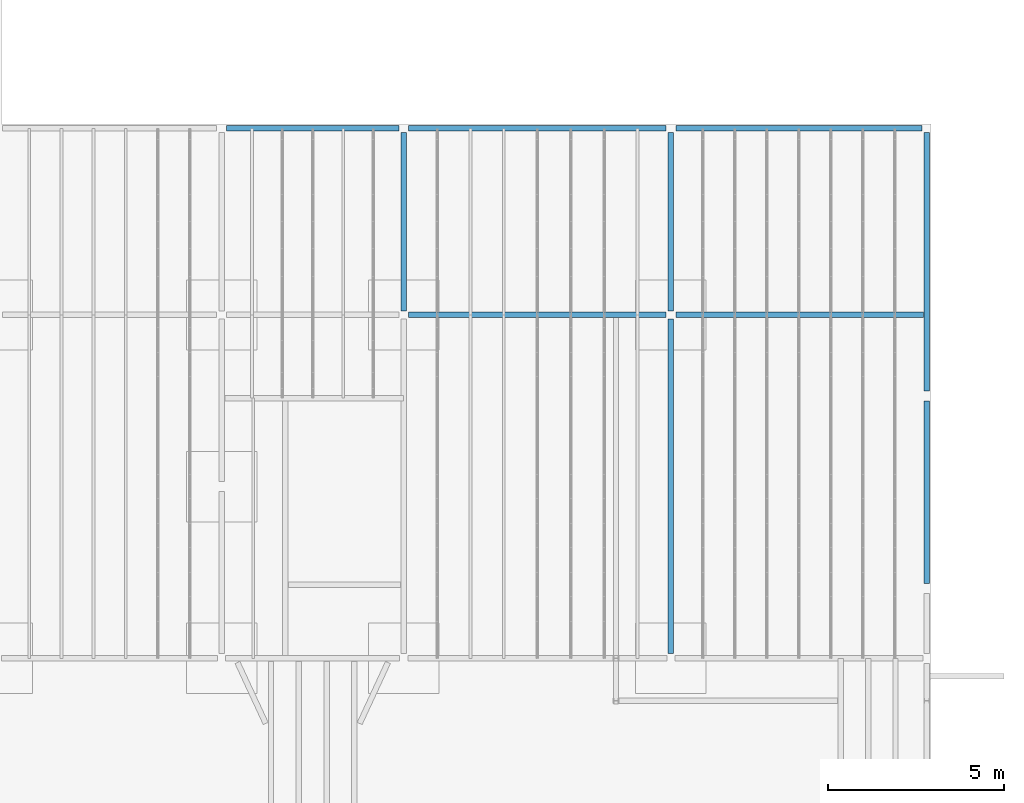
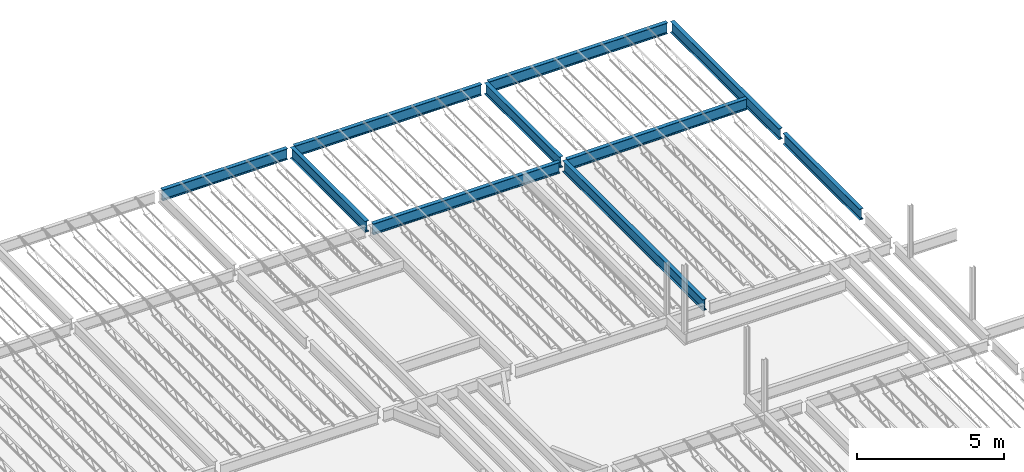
# One storey, part 15 of 75: 10 beams.
"""IFC2X3 building model written with IfcOpenShell, lengths in metres."""

from ifc_helpers import new_model, entity, si_unit, converted_unit, frame, frame_2d, origin, place, context, project, spatial, polyline, circle_curve, parameter, trimmed, segment, composite_curve, outline, extrude, material, element, save


model = new_model("IFC2X3")

# Units and contexts
model_context = context("Model", 3, precision=1e-09, world=origin())
plan_context = context("Plan", 3, precision=1e-09, world=origin())
ifc_project = project(units=[si_unit("LENGTHUNIT", "METRE"), si_unit("AREAUNIT", "SQUARE_METRE"), si_unit("VOLUMEUNIT", "CUBIC_METRE"), converted_unit("PLANEANGLEUNIT", "DEGREE", entity("IfcRatioMeasure", 0.01745329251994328), si_unit("PLANEANGLEUNIT", "RADIAN"), dimensions=[0, 0, 0, 0, 0, 0, 0]), si_unit("TIMEUNIT", "SECOND")], contexts=[model_context, plan_context])

# Site, building, storey
site_placement = place(None, origin())
site = spatial("IfcSite", under=ifc_project, at=site_placement, Name="Default", CompositionType="ELEMENT")
building_placement = place(site_placement, origin())
building = spatial("IfcBuilding", under=site, at=building_placement, CompositionType="ELEMENT")
storey_placement = place(building_placement, origin())
storey = spatial("IfcBuildingStorey", under=building, at=storey_placement, Name="First Floor", CompositionType="ELEMENT", Elevation=-3.531500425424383e-13)

# Beams
ifc_material = material(Name="Metal - Steel - 345 MPa")
beam_1_placement = place(storey_placement, frame((0.0, 42.48014042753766, 4.46800000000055), z_axis=(0.0, 0.0, 1.0), x_axis=(-1.0, 0.0, 0.0)))
element("IfcBeam", 1, at=beam_1_placement, inside=storey, material=ifc_material, Name="M_W-Wide Flange:W460X60:W460X60", ObjectType="M_W-Wide Flange:W460X60", context=model_context, shape_type="SweptSolid", body=[
    extrude(outline(composite_curve([segment(polyline([(0.2141999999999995, -0.07650000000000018), (0.2275000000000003, -0.07650000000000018)]), True, "CONTINUOUS"), segment(polyline([(0.2275000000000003, -0.07650000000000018), (0.2275000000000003, 0.07650000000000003)]), True, "CONTINUOUS"), segment(polyline([(0.2275000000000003, 0.07650000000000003), (0.2141999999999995, 0.07650000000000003)]), True, "CONTINUOUS"), segment(polyline([(0.2141999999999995, 0.07650000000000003), (0.2141999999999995, 0.02169999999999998)]), True, "CONTINUOUS"), segment(trimmed(circle_curve(frame_2d((0.1964999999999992, 0.02169999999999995), x_axis=(1.0, 0.0)), 0.0177), [parameter(269.9999999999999)], [parameter(359.9999999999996)], True, "PARAMETER"), False, "CONTINUOUS"), segment(polyline([(0.1964999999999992, 0.003999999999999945), (-0.1965000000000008, 0.003999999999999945)]), True, "CONTINUOUS"), segment(trimmed(circle_curve(frame_2d((-0.1965000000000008, 0.02169999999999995), x_axis=(0.0, -1.0)), 0.0177), [parameter(269.9999999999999)], [parameter(359.9999999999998)], True, "PARAMETER"), False, "CONTINUOUS"), segment(polyline([(-0.2142000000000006, 0.02169999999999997), (-0.2142000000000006, 0.07650000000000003)]), True, "CONTINUOUS"), segment(polyline([(-0.2142000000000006, 0.07650000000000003), (-0.2274999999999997, 0.07650000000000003)]), True, "CONTINUOUS"), segment(polyline([(-0.2274999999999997, 0.07650000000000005), (-0.2274999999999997, -0.07649999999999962)]), True, "CONTINUOUS"), segment(polyline([(-0.2274999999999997, -0.07649999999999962), (-0.2142000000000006, -0.07649999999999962)]), True, "CONTINUOUS"), segment(polyline([(-0.2142000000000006, -0.07649999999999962), (-0.2142000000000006, -0.02170000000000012)]), True, "CONTINUOUS"), segment(trimmed(circle_curve(frame_2d((-0.1965000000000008, -0.02170000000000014), x_axis=(-1.0, 0.0)), 0.0177), [parameter(269.9999999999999)], [parameter(359.9999999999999)], True, "PARAMETER"), False, "CONTINUOUS"), segment(polyline([(-0.1965000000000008, -0.004000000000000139), (0.1964999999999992, -0.004000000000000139)]), True, "CONTINUOUS"), segment(trimmed(circle_curve(frame_2d((0.1964999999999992, -0.02170000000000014), x_axis=(0.0, 1.0)), 0.0177), [parameter(269.9999999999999)], [parameter(5.088887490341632e-14)], True, "PARAMETER"), False, "CONTINUOUS"), segment(polyline([(0.2141999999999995, -0.02170000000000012), (0.2141999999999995, -0.07650000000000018)]), True, "CONTINUOUS")], self_intersect=False)), frame((0.0, 5.34769562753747, -0.2275000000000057), z_axis=(0.0, -1.0, 0.0), x_axis=(0.0, 0.0, -1.0)), (0.0, 0.0, 1.0), 5.204),
])
beam_2_placement = place(storey_placement, frame((-7.281880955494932, 50.08999999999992, 4.404500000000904), z_axis=(0.0, 0.0, 1.0), x_axis=(0.0, -1.0, 0.0)))
element("IfcBeam", 2, at=beam_2_placement, inside=storey, material=ifc_material, Name="M_W-Wide Flange:W460X60:W460X60", ObjectType="M_W-Wide Flange:W460X60", context=model_context, shape_type="SweptSolid", body=[
    extrude(outline(composite_curve([segment(polyline([(-0.07650000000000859, -0.2142000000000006), (-0.07650000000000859, -0.2275000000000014)]), True, "CONTINUOUS"), segment(polyline([(-0.07650000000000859, -0.2275000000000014), (0.07649999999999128, -0.2275000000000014)]), True, "CONTINUOUS"), segment(polyline([(0.07649999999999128, -0.2275000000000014), (0.07649999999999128, -0.2142000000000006)]), True, "CONTINUOUS"), segment(polyline([(0.07649999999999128, -0.2142000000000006), (0.02169999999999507, -0.2142000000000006)]), True, "CONTINUOUS"), segment(trimmed(circle_curve(frame_2d((0.0216999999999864, -0.1965000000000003), x_axis=(0.0, -1.0)), 0.0177), [parameter(269.9999999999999)], [parameter(359.9999999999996)], True, "PARAMETER"), False, "CONTINUOUS"), segment(polyline([(0.003999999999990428, -0.1965000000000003), (0.003999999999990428, 0.1964999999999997)]), True, "CONTINUOUS"), segment(trimmed(circle_curve(frame_2d((0.0216999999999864, 0.1964999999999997), x_axis=(-1.0, 0.0)), 0.0177), [parameter(269.9999999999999)], [parameter(359.9999999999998)], True, "PARAMETER"), False, "CONTINUOUS"), segment(polyline([(0.02169999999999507, 0.2141999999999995), (0.07649999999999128, 0.2141999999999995)]), True, "CONTINUOUS"), segment(polyline([(0.07649999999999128, 0.2141999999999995), (0.07649999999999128, 0.2274999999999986)]), True, "CONTINUOUS"), segment(polyline([(0.07649999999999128, 0.2274999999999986), (-0.07650000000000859, 0.2274999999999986)]), True, "CONTINUOUS"), segment(polyline([(-0.07650000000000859, 0.2274999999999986), (-0.07650000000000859, 0.2141999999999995)]), True, "CONTINUOUS"), segment(polyline([(-0.07650000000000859, 0.2141999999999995), (-0.02170000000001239, 0.2141999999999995)]), True, "CONTINUOUS"), segment(trimmed(circle_curve(frame_2d((-0.02170000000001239, 0.1964999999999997), x_axis=(0.0, 1.0)), 0.0177), [parameter(269.9999999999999)], [parameter(359.9999999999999)], True, "PARAMETER"), False, "CONTINUOUS"), segment(polyline([(-0.004000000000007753, 0.1964999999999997), (-0.004000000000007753, -0.1965000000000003)]), True, "CONTINUOUS"), segment(trimmed(circle_curve(frame_2d((-0.02170000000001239, -0.1965000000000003), x_axis=(1.0, 0.0)), 0.0177), [parameter(269.9999999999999)], [parameter(5.088887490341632e-14)], True, "PARAMETER"), False, "CONTINUOUS"), segment(polyline([(-0.02170000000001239, -0.2142000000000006), (-0.07650000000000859, -0.2142000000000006)]), True, "CONTINUOUS")], self_intersect=False)), frame((0.0, 0.1430809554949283, -0.2275000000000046), z_axis=(0.0, -1.0, 0.0), x_axis=(1.0, 0.0, 0.0)), (0.0, 0.0, -1.0), 6.997600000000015),
])
beam_3_placement = place(storey_placement, frame((0.0, 50.09179885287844, 4.468000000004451), z_axis=(0.0, 0.0, 1.0), x_axis=(-1.0, 0.0, 0.0)))
element("IfcBeam", 3, at=beam_3_placement, inside=storey, material=ifc_material, Name="M_W-Wide Flange:W460X60:W460X60", ObjectType="M_W-Wide Flange:W460X60", context=model_context, shape_type="SweptSolid", body=[
    extrude(outline(composite_curve([segment(polyline([(0.2142000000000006, -0.07650000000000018), (0.2275000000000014, -0.07650000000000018)]), True, "CONTINUOUS"), segment(polyline([(0.2275000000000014, -0.07650000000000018), (0.2275000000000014, 0.07650000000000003)]), True, "CONTINUOUS"), segment(polyline([(0.2275000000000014, 0.07650000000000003), (0.2142000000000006, 0.07650000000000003)]), True, "CONTINUOUS"), segment(polyline([(0.2142000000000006, 0.07650000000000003), (0.2142000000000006, 0.02169999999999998)]), True, "CONTINUOUS"), segment(trimmed(circle_curve(frame_2d((0.1965000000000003, 0.02169999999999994), x_axis=(1.0, 0.0)), 0.0177), [parameter(269.9999999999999)], [parameter(359.9999999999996)], True, "PARAMETER"), False, "CONTINUOUS"), segment(polyline([(0.1965000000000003, 0.003999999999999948), (-0.1964999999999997, 0.003999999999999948)]), True, "CONTINUOUS"), segment(trimmed(circle_curve(frame_2d((-0.1964999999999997, 0.02169999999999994), x_axis=(0.0, -1.0)), 0.0177), [parameter(269.9999999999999)], [parameter(359.9999999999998)], True, "PARAMETER"), False, "CONTINUOUS"), segment(polyline([(-0.2141999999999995, 0.02169999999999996), (-0.2141999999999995, 0.07650000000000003)]), True, "CONTINUOUS"), segment(polyline([(-0.2141999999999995, 0.07650000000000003), (-0.2274999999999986, 0.07650000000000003)]), True, "CONTINUOUS"), segment(polyline([(-0.2274999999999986, 0.07650000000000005), (-0.2274999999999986, -0.07649999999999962)]), True, "CONTINUOUS"), segment(polyline([(-0.2274999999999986, -0.07649999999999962), (-0.2141999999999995, -0.07649999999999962)]), True, "CONTINUOUS"), segment(polyline([(-0.2141999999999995, -0.07649999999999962), (-0.2141999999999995, -0.02170000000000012)]), True, "CONTINUOUS"), segment(trimmed(circle_curve(frame_2d((-0.1964999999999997, -0.02170000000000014), x_axis=(-1.0, 0.0)), 0.0177), [parameter(269.9999999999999)], [parameter(359.9999999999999)], True, "PARAMETER"), False, "CONTINUOUS"), segment(polyline([(-0.1964999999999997, -0.004000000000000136), (0.1965000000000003, -0.004000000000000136)]), True, "CONTINUOUS"), segment(trimmed(circle_curve(frame_2d((0.1965000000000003, -0.02170000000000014), x_axis=(0.0, 1.0)), 0.0177), [parameter(269.9999999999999)], [parameter(5.088887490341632e-14)], True, "PARAMETER"), False, "CONTINUOUS"), segment(polyline([(0.2142000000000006, -0.02170000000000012), (0.2142000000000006, -0.07650000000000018)]), True, "CONTINUOUS")], self_intersect=False)), frame((0.0, 7.472954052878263, -0.2275000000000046), z_axis=(0.0, -1.0, 0.0), x_axis=(0.0, 0.0, -1.0)), (0.0, 0.0, 1.0), 7.356455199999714),
])
beam_4_placement = place(storey_placement, frame((-7.279999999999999, 50.09257849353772, 4.468000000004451), z_axis=(0.0, 0.0, 1.0), x_axis=(-1.0, 0.0, 0.0)))
element("IfcBeam", 4, at=beam_4_placement, inside=storey, material=ifc_material, Name="M_W-Wide Flange:W460X60:W460X60", ObjectType="M_W-Wide Flange:W460X60", context=model_context, shape_type="SweptSolid", body=[
    extrude(outline(composite_curve([segment(polyline([(0.2142000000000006, -0.07649999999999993), (0.2275000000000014, -0.07649999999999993)]), True, "CONTINUOUS"), segment(polyline([(0.2275000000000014, -0.07649999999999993), (0.2275000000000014, 0.07650000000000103)]), True, "CONTINUOUS"), segment(polyline([(0.2275000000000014, 0.07650000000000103), (0.2142000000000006, 0.07650000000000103)]), True, "CONTINUOUS"), segment(polyline([(0.2142000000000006, 0.07650000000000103), (0.2142000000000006, 0.02170000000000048)]), True, "CONTINUOUS"), segment(trimmed(circle_curve(frame_2d((0.1965000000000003, 0.02170000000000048), x_axis=(1.0, 0.0)), 0.0177), [parameter(269.9999999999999)], [parameter(359.9999999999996)], True, "PARAMETER"), False, "CONTINUOUS"), segment(polyline([(0.1965000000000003, 0.004000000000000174), (-0.1964999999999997, 0.004000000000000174)]), True, "CONTINUOUS"), segment(trimmed(circle_curve(frame_2d((-0.1964999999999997, 0.02170000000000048), x_axis=(0.0, -1.0)), 0.0177), [parameter(269.9999999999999)], [parameter(359.9999999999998)], True, "PARAMETER"), False, "CONTINUOUS"), segment(polyline([(-0.2141999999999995, 0.02170000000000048), (-0.2141999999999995, 0.07650000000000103)]), True, "CONTINUOUS"), segment(polyline([(-0.2141999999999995, 0.07650000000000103), (-0.2274999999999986, 0.07650000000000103)]), True, "CONTINUOUS"), segment(polyline([(-0.2274999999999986, 0.07650000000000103), (-0.2274999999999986, -0.07649999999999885)]), True, "CONTINUOUS"), segment(polyline([(-0.2274999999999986, -0.07649999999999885), (-0.2141999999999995, -0.07649999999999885)]), True, "CONTINUOUS"), segment(polyline([(-0.2141999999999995, -0.07649999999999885), (-0.2141999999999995, -0.0216999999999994)]), True, "CONTINUOUS"), segment(trimmed(circle_curve(frame_2d((-0.1964999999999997, -0.0216999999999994), x_axis=(-1.0, 0.0)), 0.0177), [parameter(269.9999999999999)], [parameter(359.9999999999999)], True, "PARAMETER"), False, "CONTINUOUS"), segment(polyline([(-0.1964999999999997, -0.00399999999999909), (0.1965000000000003, -0.00399999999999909)]), True, "CONTINUOUS"), segment(trimmed(circle_curve(frame_2d((0.1965000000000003, -0.0216999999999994), x_axis=(0.0, 1.0)), 0.0177), [parameter(269.9999999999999)], [parameter(5.088887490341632e-14)], True, "PARAMETER"), False, "CONTINUOUS"), segment(polyline([(0.2142000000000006, -0.0216999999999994), (0.2142000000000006, -0.07649999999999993)]), True, "CONTINUOUS")], self_intersect=False)), frame((0.0, 5.197878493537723, -0.2275000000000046), z_axis=(0.0, -1.0, 0.0), x_axis=(0.0, 0.0, -1.0)), (0.0, 0.0, 1.0), 5.080599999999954),
])
beam_5_placement = place(storey_placement, frame((-14.88177678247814, 50.08999999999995, 4.404500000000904), z_axis=(0.0, 0.0, 1.0), x_axis=(0.0, -1.0, 0.0)))
element("IfcBeam", 5, at=beam_5_placement, inside=storey, material=ifc_material, Name="M_W-Wide Flange:W460X60:W460X60", ObjectType="M_W-Wide Flange:W460X60", context=model_context, shape_type="SweptSolid", body=[
    extrude(outline(composite_curve([segment(polyline([(-0.07650000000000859, -0.2142000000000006), (-0.07650000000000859, -0.2275000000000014)]), True, "CONTINUOUS"), segment(polyline([(-0.07650000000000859, -0.2275000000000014), (0.07649999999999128, -0.2275000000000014)]), True, "CONTINUOUS"), segment(polyline([(0.07649999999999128, -0.2275000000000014), (0.07649999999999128, -0.2142000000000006)]), True, "CONTINUOUS"), segment(polyline([(0.07649999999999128, -0.2142000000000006), (0.02169999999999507, -0.2142000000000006)]), True, "CONTINUOUS"), segment(trimmed(circle_curve(frame_2d((0.0216999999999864, -0.1965000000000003), x_axis=(0.0, -1.0)), 0.0177), [parameter(269.9999999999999)], [parameter(359.9999999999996)], True, "PARAMETER"), False, "CONTINUOUS"), segment(polyline([(0.003999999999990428, -0.1965000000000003), (0.003999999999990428, 0.1964999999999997)]), True, "CONTINUOUS"), segment(trimmed(circle_curve(frame_2d((0.0216999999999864, 0.1964999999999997), x_axis=(-1.0, 0.0)), 0.0177), [parameter(269.9999999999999)], [parameter(359.9999999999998)], True, "PARAMETER"), False, "CONTINUOUS"), segment(polyline([(0.02169999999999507, 0.2141999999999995), (0.07649999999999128, 0.2141999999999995)]), True, "CONTINUOUS"), segment(polyline([(0.07649999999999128, 0.2141999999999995), (0.07649999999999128, 0.2274999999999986)]), True, "CONTINUOUS"), segment(polyline([(0.07649999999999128, 0.2274999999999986), (-0.07650000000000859, 0.2274999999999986)]), True, "CONTINUOUS"), segment(polyline([(-0.07650000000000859, 0.2274999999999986), (-0.07650000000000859, 0.2141999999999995)]), True, "CONTINUOUS"), segment(polyline([(-0.07650000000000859, 0.2141999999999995), (-0.02170000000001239, 0.2141999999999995)]), True, "CONTINUOUS"), segment(trimmed(circle_curve(frame_2d((-0.02170000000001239, 0.1964999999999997), x_axis=(0.0, 1.0)), 0.0177), [parameter(269.9999999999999)], [parameter(359.9999999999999)], True, "PARAMETER"), False, "CONTINUOUS"), segment(polyline([(-0.004000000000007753, 0.1964999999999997), (-0.004000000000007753, -0.1965000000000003)]), True, "CONTINUOUS"), segment(trimmed(circle_curve(frame_2d((-0.02170000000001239, -0.1965000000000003), x_axis=(1.0, 0.0)), 0.0177), [parameter(269.9999999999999)], [parameter(5.088887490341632e-14)], True, "PARAMETER"), False, "CONTINUOUS"), segment(polyline([(-0.02170000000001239, -0.2142000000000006), (-0.07650000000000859, -0.2142000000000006)]), True, "CONTINUOUS")], self_intersect=False)), frame((0.0, 0.1430017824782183, -0.2275000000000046), z_axis=(0.0, -1.0, 0.0), x_axis=(1.0, 0.0, 0.0)), (0.0, 0.0, -1.0), 7.31757499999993),
])
beam_6_placement = place(storey_placement, frame((-20.06264315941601, 50.08999999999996, 4.404500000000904), z_axis=(0.0, 0.0, 1.0), x_axis=(0.0, -1.0, 0.0)))
element("IfcBeam", 6, at=beam_6_placement, inside=storey, material=ifc_material, Name="M_W-Wide Flange:W460X60:W460X60", ObjectType="M_W-Wide Flange:W460X60", context=model_context, shape_type="SweptSolid", body=[
    extrude(outline(composite_curve([segment(polyline([(-0.07649999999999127, -0.2142000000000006), (-0.07649999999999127, -0.2275000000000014)]), True, "CONTINUOUS"), segment(polyline([(-0.07649999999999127, -0.2275000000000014), (0.07650000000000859, -0.2275000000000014)]), True, "CONTINUOUS"), segment(polyline([(0.07650000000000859, -0.2275000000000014), (0.07650000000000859, -0.2142000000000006)]), True, "CONTINUOUS"), segment(polyline([(0.07650000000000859, -0.2142000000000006), (0.02170000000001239, -0.2142000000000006)]), True, "CONTINUOUS"), segment(trimmed(circle_curve(frame_2d((0.02170000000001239, -0.1965000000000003), x_axis=(0.0, -1.0)), 0.0177), [parameter(269.9999999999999)], [parameter(359.9999999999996)], True, "PARAMETER"), False, "CONTINUOUS"), segment(polyline([(0.004000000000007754, -0.1965000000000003), (0.004000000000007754, 0.1964999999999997)]), True, "CONTINUOUS"), segment(trimmed(circle_curve(frame_2d((0.02170000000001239, 0.1964999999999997), x_axis=(-1.0, 0.0)), 0.0177), [parameter(269.9999999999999)], [parameter(359.9999999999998)], True, "PARAMETER"), False, "CONTINUOUS"), segment(polyline([(0.02170000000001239, 0.2141999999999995), (0.07650000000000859, 0.2141999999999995)]), True, "CONTINUOUS"), segment(polyline([(0.07650000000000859, 0.2141999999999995), (0.07650000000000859, 0.2274999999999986)]), True, "CONTINUOUS"), segment(polyline([(0.07650000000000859, 0.2274999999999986), (-0.07649999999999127, 0.2274999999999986)]), True, "CONTINUOUS"), segment(polyline([(-0.07649999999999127, 0.2274999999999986), (-0.07649999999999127, 0.2141999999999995)]), True, "CONTINUOUS"), segment(polyline([(-0.07649999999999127, 0.2141999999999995), (-0.02169999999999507, 0.2141999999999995)]), True, "CONTINUOUS"), segment(trimmed(circle_curve(frame_2d((-0.0216999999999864, 0.1964999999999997), x_axis=(0.0, 1.0)), 0.0177), [parameter(269.9999999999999)], [parameter(359.9999999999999)], True, "PARAMETER"), False, "CONTINUOUS"), segment(polyline([(-0.003999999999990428, 0.1964999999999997), (-0.003999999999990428, -0.1965000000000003)]), True, "CONTINUOUS"), segment(trimmed(circle_curve(frame_2d((-0.0216999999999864, -0.1965000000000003), x_axis=(1.0, 0.0)), 0.0177), [parameter(269.9999999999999)], [parameter(5.088887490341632e-14)], True, "PARAMETER"), False, "CONTINUOUS"), segment(polyline([(-0.02169999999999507, -0.2142000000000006), (-0.07649999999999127, -0.2142000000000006)]), True, "CONTINUOUS")], self_intersect=False)), frame((0.0, 0.1438431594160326, -0.2275000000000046), z_axis=(0.0, -1.0, 0.0), x_axis=(1.0, 0.0, 0.0)), (0.0, 0.0, -1.0), 4.897625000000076),
])
beam_7_placement = place(storey_placement, frame((-7.280000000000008, 44.78140165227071, 4.46800000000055), z_axis=(0.0, 0.0, 1.0), x_axis=(-1.0, 0.0, 0.0)))
element("IfcBeam", 7, at=beam_7_placement, inside=storey, material=ifc_material, Name="M_W-Wide Flange:W460X60:W460X60", ObjectType="M_W-Wide Flange:W460X60", context=model_context, shape_type="SweptSolid", body=[
    extrude(outline(composite_curve([segment(polyline([(0.2141999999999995, -0.07650000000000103), (0.2275000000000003, -0.07650000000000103)]), True, "CONTINUOUS"), segment(polyline([(0.2275000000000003, -0.07650000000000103), (0.2275000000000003, 0.07649999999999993)]), True, "CONTINUOUS"), segment(polyline([(0.2275000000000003, 0.07649999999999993), (0.2141999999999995, 0.07649999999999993)]), True, "CONTINUOUS"), segment(polyline([(0.2141999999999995, 0.07649999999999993), (0.2141999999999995, 0.0216999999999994)]), True, "CONTINUOUS"), segment(trimmed(circle_curve(frame_2d((0.1964999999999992, 0.0216999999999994), x_axis=(1.0, 0.0)), 0.0177), [parameter(269.9999999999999)], [parameter(359.9999999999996)], True, "PARAMETER"), False, "CONTINUOUS"), segment(polyline([(0.1964999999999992, 0.003999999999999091), (-0.1965000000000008, 0.003999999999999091)]), True, "CONTINUOUS"), segment(trimmed(circle_curve(frame_2d((-0.1965000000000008, 0.0216999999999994), x_axis=(0.0, -1.0)), 0.0177), [parameter(269.9999999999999)], [parameter(359.9999999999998)], True, "PARAMETER"), False, "CONTINUOUS"), segment(polyline([(-0.2142000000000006, 0.0216999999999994), (-0.2142000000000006, 0.07649999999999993)]), True, "CONTINUOUS"), segment(polyline([(-0.2142000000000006, 0.07649999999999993), (-0.2274999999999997, 0.07649999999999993)]), True, "CONTINUOUS"), segment(polyline([(-0.2274999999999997, 0.07649999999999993), (-0.2274999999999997, -0.07649999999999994)]), True, "CONTINUOUS"), segment(polyline([(-0.2274999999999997, -0.07649999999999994), (-0.2142000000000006, -0.07649999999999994)]), True, "CONTINUOUS"), segment(polyline([(-0.2142000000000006, -0.07649999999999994), (-0.2142000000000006, -0.02170000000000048)]), True, "CONTINUOUS"), segment(trimmed(circle_curve(frame_2d((-0.1965000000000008, -0.02170000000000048), x_axis=(-1.0, 0.0)), 0.0177), [parameter(269.9999999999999)], [parameter(359.9999999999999)], True, "PARAMETER"), False, "CONTINUOUS"), segment(polyline([(-0.1965000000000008, -0.004000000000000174), (0.1964999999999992, -0.004000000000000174)]), True, "CONTINUOUS"), segment(trimmed(circle_curve(frame_2d((0.1964999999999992, -0.02170000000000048), x_axis=(0.0, 1.0)), 0.0177), [parameter(269.9999999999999)], [parameter(5.088887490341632e-14)], True, "PARAMETER"), False, "CONTINUOUS"), segment(polyline([(0.2141999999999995, -0.02170000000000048), (0.2141999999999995, -0.07650000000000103)]), True, "CONTINUOUS")], self_intersect=False)), frame((0.0, 9.630201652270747, -0.2275000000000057), z_axis=(0.0, -1.0, 0.0), x_axis=(0.0, 0.0, -1.0)), (0.0, 0.0, 1.0), 9.514099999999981),
])
beam_8_placement = place(storey_placement, frame((-7.601764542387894, 44.77999999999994, 4.401693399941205), z_axis=(-0.00872219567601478, 0.0, 0.9999619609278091), x_axis=(0.0, -1.0, 0.0)))
element("IfcBeam", 8, at=beam_8_placement, inside=storey, material=ifc_material, Name="M_W-Wide Flange:W460X60:W460X60", ObjectType="M_W-Wide Flange:W460X60", context=model_context, shape_type="SweptSolid", body=[
    extrude(outline(composite_curve([segment(polyline([(-0.07650000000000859, -0.2142000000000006), (-0.07650000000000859, -0.2275000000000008)]), True, "CONTINUOUS"), segment(polyline([(-0.07650000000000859, -0.2275000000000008), (0.07649999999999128, -0.2275000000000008)]), True, "CONTINUOUS"), segment(polyline([(0.07649999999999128, -0.2275000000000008), (0.07649999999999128, -0.2142000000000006)]), True, "CONTINUOUS"), segment(polyline([(0.07649999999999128, -0.2142000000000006), (0.02169999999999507, -0.2142000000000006)]), True, "CONTINUOUS"), segment(trimmed(circle_curve(frame_2d((0.02169999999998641, -0.1965000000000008), x_axis=(1.0, 0.0)), 0.0177), [parameter(180.0)], [parameter(269.9999999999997)], True, "PARAMETER"), False, "CONTINUOUS"), segment(polyline([(0.00399999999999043, -0.1965000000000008), (0.003999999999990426, 0.1964999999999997)]), True, "CONTINUOUS"), segment(trimmed(circle_curve(frame_2d((0.0216999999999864, 0.1964999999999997), x_axis=(1.0, 0.0)), 0.0177), [parameter(90.00000000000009)], [parameter(179.9999999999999)], True, "PARAMETER"), False, "CONTINUOUS"), segment(polyline([(0.02169999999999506, 0.2141999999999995), (0.07649999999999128, 0.2141999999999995)]), True, "CONTINUOUS"), segment(polyline([(0.07649999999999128, 0.2141999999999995), (0.07649999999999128, 0.2274999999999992)]), True, "CONTINUOUS"), segment(polyline([(0.07649999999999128, 0.2274999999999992), (-0.07650000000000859, 0.2274999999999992)]), True, "CONTINUOUS"), segment(polyline([(-0.07650000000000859, 0.2274999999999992), (-0.07650000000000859, 0.2141999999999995)]), True, "CONTINUOUS"), segment(polyline([(-0.07650000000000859, 0.2141999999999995), (-0.0217000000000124, 0.2141999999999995)]), True, "CONTINUOUS"), segment(trimmed(circle_curve(frame_2d((-0.0217000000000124, 0.1964999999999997), x_axis=(1.0, 0.0)), 0.0177), [parameter(359.9999999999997)], [parameter(89.99999999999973)], True, "PARAMETER"), False, "CONTINUOUS"), segment(polyline([(-0.004000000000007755, 0.1964999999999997), (-0.004000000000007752, -0.1965000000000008)]), True, "CONTINUOUS"), segment(trimmed(circle_curve(frame_2d((-0.02170000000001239, -0.1965000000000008), x_axis=(1.0, 0.0)), 0.0177), [parameter(269.9999999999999)], [parameter(0.0)], True, "PARAMETER"), False, "CONTINUOUS"), segment(polyline([(-0.02170000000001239, -0.2142000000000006), (-0.07650000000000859, -0.2142000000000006)]), True, "CONTINUOUS")], self_intersect=False)), frame((0.0, 0.462976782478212, -0.2275000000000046), z_axis=(0.0, -1.0, 0.0), x_axis=(1.0, 0.0, 0.0)), (0.0, 0.0, -1.0), 7.045911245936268),
])
beam_9_placement = place(storey_placement, frame((-14.88177678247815, 44.77999999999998, 4.404500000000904), z_axis=(0.0, 0.0, 1.0), x_axis=(0.0, -1.0, 0.0)))
element("IfcBeam", 9, at=beam_9_placement, inside=storey, material=ifc_material, Name="M_W-Wide Flange:W460X60:W460X60", ObjectType="M_W-Wide Flange:W460X60", context=model_context, shape_type="SweptSolid", body=[
    extrude(outline(composite_curve([segment(polyline([(-0.07649999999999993, -0.2142000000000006), (-0.07649999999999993, -0.2275000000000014)]), True, "CONTINUOUS"), segment(polyline([(-0.07649999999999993, -0.2275000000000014), (0.07649999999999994, -0.2275000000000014)]), True, "CONTINUOUS"), segment(polyline([(0.07649999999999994, -0.2275000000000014), (0.07649999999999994, -0.2142000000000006)]), True, "CONTINUOUS"), segment(polyline([(0.07649999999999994, -0.2142000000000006), (0.02170000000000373, -0.2142000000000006)]), True, "CONTINUOUS"), segment(trimmed(circle_curve(frame_2d((0.02169999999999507, -0.1965000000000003), x_axis=(0.0, -1.0)), 0.0177), [parameter(269.9999999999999)], [parameter(359.9999999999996)], True, "PARAMETER"), False, "CONTINUOUS"), segment(polyline([(0.00399999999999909, -0.1965000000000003), (0.00399999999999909, 0.1964999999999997)]), True, "CONTINUOUS"), segment(trimmed(circle_curve(frame_2d((0.02169999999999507, 0.1964999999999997), x_axis=(-1.0, 0.0)), 0.0177), [parameter(269.9999999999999)], [parameter(359.9999999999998)], True, "PARAMETER"), False, "CONTINUOUS"), segment(polyline([(0.02170000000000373, 0.2141999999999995), (0.07649999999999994, 0.2141999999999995)]), True, "CONTINUOUS"), segment(polyline([(0.07649999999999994, 0.2141999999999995), (0.07649999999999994, 0.2274999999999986)]), True, "CONTINUOUS"), segment(polyline([(0.07649999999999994, 0.2274999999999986), (-0.07649999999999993, 0.2274999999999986)]), True, "CONTINUOUS"), segment(polyline([(-0.07649999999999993, 0.2274999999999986), (-0.07649999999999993, 0.2141999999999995)]), True, "CONTINUOUS"), segment(polyline([(-0.07649999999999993, 0.2141999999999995), (-0.02170000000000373, 0.2141999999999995)]), True, "CONTINUOUS"), segment(trimmed(circle_curve(frame_2d((-0.02170000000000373, 0.1964999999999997), x_axis=(0.0, 1.0)), 0.0177), [parameter(269.9999999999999)], [parameter(359.9999999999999)], True, "PARAMETER"), False, "CONTINUOUS"), segment(polyline([(-0.003999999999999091, 0.1964999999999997), (-0.003999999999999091, -0.1965000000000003)]), True, "CONTINUOUS"), segment(trimmed(circle_curve(frame_2d((-0.02170000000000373, -0.1965000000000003), x_axis=(1.0, 0.0)), 0.0177), [parameter(269.9999999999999)], [parameter(5.088887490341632e-14)], True, "PARAMETER"), False, "CONTINUOUS"), segment(polyline([(-0.02170000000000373, -0.2142000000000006), (-0.07649999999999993, -0.2142000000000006)]), True, "CONTINUOUS")], self_intersect=False)), frame((0.0, 0.1430017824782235, -0.2275000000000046), z_axis=(0.0, -1.0, 0.0), x_axis=(1.0, 0.0, 0.0)), (0.0, 0.0, -1.0), 7.31757499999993),
])
beam_10_placement = place(storey_placement, frame((-14.87997499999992, 50.09257849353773, 4.468000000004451), z_axis=(0.0, 0.0, 1.0), x_axis=(-1.0, 0.0, 0.0)))
element("IfcBeam", 10, at=beam_10_placement, inside=storey, material=ifc_material, Name="M_W-Wide Flange:W460X60:W460X60", ObjectType="M_W-Wide Flange:W460X60", context=model_context, shape_type="SweptSolid", body=[
    extrude(outline(composite_curve([segment(polyline([(0.2142000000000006, -0.07649999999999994), (0.2275000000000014, -0.07649999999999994)]), True, "CONTINUOUS"), segment(polyline([(0.2275000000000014, -0.07649999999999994), (0.2275000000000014, 0.07649999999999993)]), True, "CONTINUOUS"), segment(polyline([(0.2275000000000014, 0.07649999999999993), (0.2142000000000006, 0.07649999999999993)]), True, "CONTINUOUS"), segment(polyline([(0.2142000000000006, 0.07649999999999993), (0.2142000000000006, 0.02170000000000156)]), True, "CONTINUOUS"), segment(trimmed(circle_curve(frame_2d((0.1965000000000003, 0.02170000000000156), x_axis=(1.0, 0.0)), 0.0177), [parameter(269.9999999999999)], [parameter(359.9999999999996)], True, "PARAMETER"), False, "CONTINUOUS"), segment(polyline([(0.1965000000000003, 0.004000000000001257), (-0.1964999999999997, 0.004000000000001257)]), True, "CONTINUOUS"), segment(trimmed(circle_curve(frame_2d((-0.1964999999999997, 0.02170000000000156), x_axis=(0.0, -1.0)), 0.0177), [parameter(269.9999999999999)], [parameter(359.9999999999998)], True, "PARAMETER"), False, "CONTINUOUS"), segment(polyline([(-0.2141999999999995, 0.02170000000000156), (-0.2141999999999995, 0.07649999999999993)]), True, "CONTINUOUS"), segment(polyline([(-0.2141999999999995, 0.07649999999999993), (-0.2274999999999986, 0.07649999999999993)]), True, "CONTINUOUS"), segment(polyline([(-0.2274999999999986, 0.07649999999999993), (-0.2274999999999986, -0.07649999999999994)]), True, "CONTINUOUS"), segment(polyline([(-0.2274999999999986, -0.07649999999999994), (-0.2141999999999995, -0.07649999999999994)]), True, "CONTINUOUS"), segment(polyline([(-0.2141999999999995, -0.07649999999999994), (-0.2141999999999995, -0.0216999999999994)]), True, "CONTINUOUS"), segment(trimmed(circle_curve(frame_2d((-0.1964999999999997, -0.0216999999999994), x_axis=(-1.0, 0.0)), 0.0177), [parameter(269.9999999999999)], [parameter(359.9999999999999)], True, "PARAMETER"), False, "CONTINUOUS"), segment(polyline([(-0.1964999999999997, -0.00399999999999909), (0.1965000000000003, -0.00399999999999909)]), True, "CONTINUOUS"), segment(trimmed(circle_curve(frame_2d((0.1965000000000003, -0.0216999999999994), x_axis=(0.0, 1.0)), 0.0177), [parameter(269.9999999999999)], [parameter(5.088887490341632e-14)], True, "PARAMETER"), False, "CONTINUOUS"), segment(polyline([(0.2142000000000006, -0.0216999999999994), (0.2142000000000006, -0.07649999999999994)]), True, "CONTINUOUS")], self_intersect=False)), frame((0.0, 5.197878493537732, -0.2275000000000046), z_axis=(0.0, -1.0, 0.0), x_axis=(0.0, 0.0, -1.0)), (0.0, 0.0, 1.0), 5.080599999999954),
])

save(model, "model.ifc")
